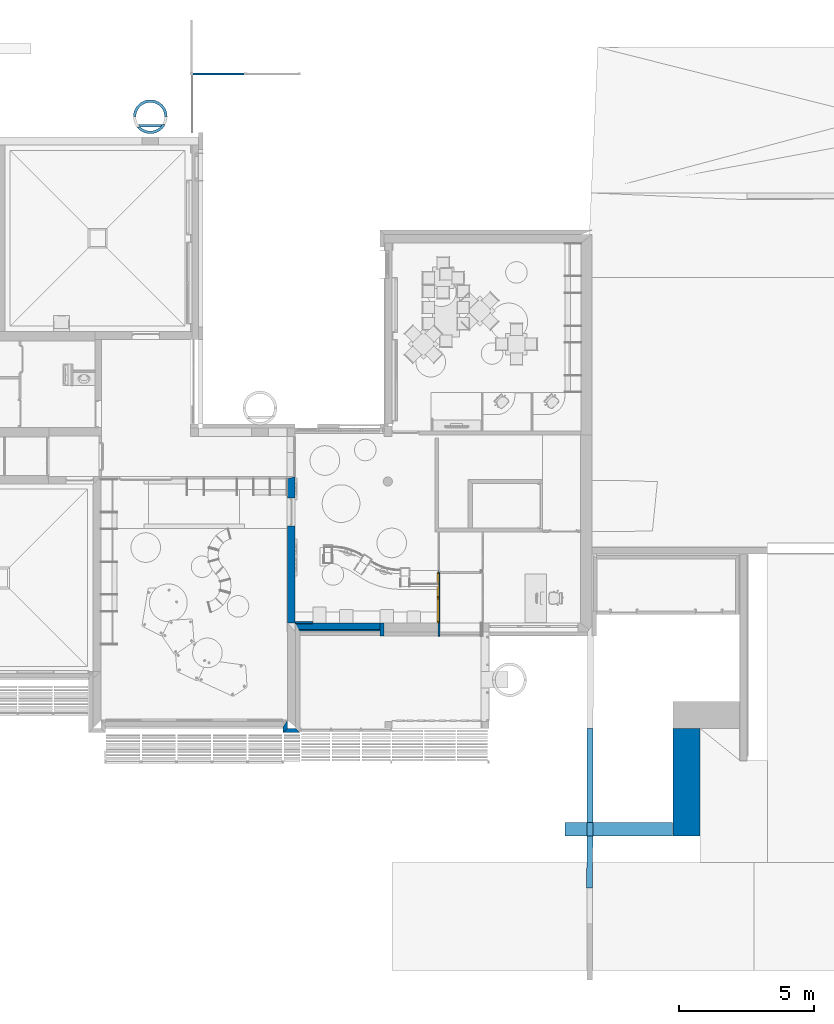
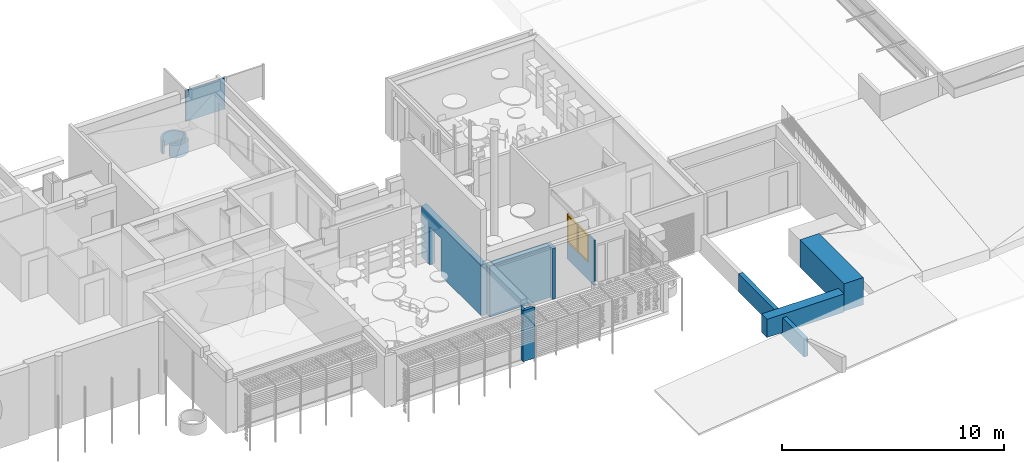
# One storey, part 24 of 64: 15 walls, 2 windows, 3 openings.
"""IFC2X3 building model written with IfcOpenShell, lengths in metres."""

from ifc_helpers import new_model, entity, si_unit, converted_unit, derived_unit, direction, frame, frame_2d, origin, origin_2d_with_axis, place, context, subcontext, project, spatial, polyline, circle_curve, parameter, trimmed, segment, composite_curve, rectangle, outline, extrude, clip, bounded_halfspace, source, transform, mapped, material, material_list, layer, layer_set, layer_usage, type_object, type_shapes, element, fill, save


model = new_model("IFC2X3")

# Units and contexts
model_context = context("Model", 3, precision=1e-05, world=origin(), true_north=direction((6.123031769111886e-17, 1.0)))
body_context = subcontext(model_context, "Body", "Model", "MODEL_VIEW")
ifc_project = project(units=[si_unit("LENGTHUNIT", "METRE"), si_unit("AREAUNIT", "SQUARE_METRE"), si_unit("VOLUMEUNIT", "CUBIC_METRE"), converted_unit("PLANEANGLEUNIT", "DEGREE", entity("IfcRatioMeasure", 0.017453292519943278), si_unit("PLANEANGLEUNIT", "RADIAN"), dimensions=[0, 0, 0, 0, 0, 0, 0]), si_unit("MASSUNIT", "GRAM", prefix="KILO"), derived_unit("MASSDENSITYUNIT", [(si_unit("MASSUNIT", "GRAM", prefix="KILO"), 1), (si_unit("LENGTHUNIT", "METRE"), -3)]), derived_unit("MOMENTOFINERTIAUNIT", [(si_unit("LENGTHUNIT", "METRE"), 4)]), si_unit("TIMEUNIT", "SECOND"), si_unit("FREQUENCYUNIT", "HERTZ"), si_unit("THERMODYNAMICTEMPERATUREUNIT", "DEGREE_CELSIUS"), derived_unit("THERMALTRANSMITTANCEUNIT", [(si_unit("MASSUNIT", "GRAM", prefix="KILO"), 1), (si_unit("THERMODYNAMICTEMPERATUREUNIT", "KELVIN"), -1), (si_unit("TIMEUNIT", "SECOND"), -3)]), derived_unit("THERMALCONDUCTANCEUNIT", [(si_unit("MASSUNIT", "GRAM", prefix="KILO"), 1), (si_unit("LENGTHUNIT", "METRE"), 1), (si_unit("THERMODYNAMICTEMPERATUREUNIT", "KELVIN"), -1), (si_unit("TIMEUNIT", "SECOND"), -3)]), derived_unit("VOLUMETRICFLOWRATEUNIT", [(si_unit("LENGTHUNIT", "METRE"), 3), (si_unit("TIMEUNIT", "SECOND"), -1)]), derived_unit("MASSFLOWRATEUNIT", [(si_unit("MASSUNIT", "GRAM", prefix="KILO"), 1), (si_unit("TIMEUNIT", "SECOND"), -1)]), derived_unit("ROTATIONALFREQUENCYUNIT", [(si_unit("TIMEUNIT", "SECOND"), -1)]), si_unit("ELECTRICCURRENTUNIT", "AMPERE"), si_unit("ELECTRICVOLTAGEUNIT", "VOLT"), si_unit("POWERUNIT", "WATT"), si_unit("FORCEUNIT", "NEWTON", prefix="KILO"), si_unit("ILLUMINANCEUNIT", "LUX"), si_unit("LUMINOUSFLUXUNIT", "LUMEN"), si_unit("LUMINOUSINTENSITYUNIT", "CANDELA"), derived_unit("USERDEFINED", [(si_unit("MASSUNIT", "GRAM", prefix="KILO"), -1), (si_unit("LENGTHUNIT", "METRE"), -2), (si_unit("TIMEUNIT", "SECOND"), 3), (si_unit("LUMINOUSFLUXUNIT", "LUMEN"), 1)]), derived_unit("USERDEFINED", [(si_unit("MASSUNIT", "GRAM", prefix="KILO"), 1), (si_unit("LENGTHUNIT", "METRE"), 3), (si_unit("TIMEUNIT", "SECOND"), -3), (si_unit("ELECTRICCURRENTUNIT", "AMPERE"), -2)]), derived_unit("USERDEFINED", [(si_unit("LENGTHUNIT", "METRE"), 2), (si_unit("TIMEUNIT", "SECOND"), -2)]), derived_unit("SOUNDPOWERUNIT", [(si_unit("MASSUNIT", "GRAM", prefix="KILO"), 1), (si_unit("LENGTHUNIT", "METRE"), 2), (si_unit("TIMEUNIT", "SECOND"), -3)]), derived_unit("SOUNDPRESSUREUNIT", [(si_unit("MASSUNIT", "GRAM", prefix="KILO"), 1), (si_unit("LENGTHUNIT", "METRE"), -1), (si_unit("TIMEUNIT", "SECOND"), -2)]), derived_unit("LINEARVELOCITYUNIT", [(si_unit("LENGTHUNIT", "METRE"), 1), (si_unit("TIMEUNIT", "SECOND"), -1)]), si_unit("PRESSUREUNIT", "PASCAL"), derived_unit("USERDEFINED", [(si_unit("LENGTHUNIT", "METRE"), -2), (si_unit("MASSUNIT", "GRAM", prefix="KILO"), 1), (si_unit("TIMEUNIT", "SECOND"), -2)]), derived_unit("LINEARFORCEUNIT", [(si_unit("MASSUNIT", "GRAM", prefix="KILO"), 1), (si_unit("LENGTHUNIT", "METRE"), 1), (si_unit("TIMEUNIT", "SECOND"), -2), (si_unit("LENGTHUNIT", "METRE"), -1)]), derived_unit("PLANARFORCEUNIT", [(si_unit("MASSUNIT", "GRAM", prefix="KILO"), 1), (si_unit("LENGTHUNIT", "METRE"), 1), (si_unit("TIMEUNIT", "SECOND"), -2), (si_unit("LENGTHUNIT", "METRE"), -2)]), derived_unit("SPECIFICHEATCAPACITYUNIT", [(si_unit("LENGTHUNIT", "METRE"), 2), (si_unit("TIMEUNIT", "SECOND"), -2), (si_unit("THERMODYNAMICTEMPERATUREUNIT", "KELVIN"), -1)]), derived_unit("VAPORPERMEABILITYUNIT", [(si_unit("TIMEUNIT", "SECOND"), 1), (si_unit("LENGTHUNIT", "METRE"), -1)]), derived_unit("DYNAMICVISCOSITYUNIT", [(si_unit("MASSUNIT", "GRAM", prefix="KILO"), 1), (si_unit("LENGTHUNIT", "METRE"), -1), (si_unit("TIMEUNIT", "SECOND"), -1)]), derived_unit("THERMALEXPANSIONCOEFFICIENTUNIT", [(si_unit("THERMODYNAMICTEMPERATUREUNIT", "KELVIN"), -1)])], contexts=[model_context])

# Site, building, storey
site_placement = place(None, origin())
site = spatial("IfcSite", under=ifc_project, at=site_placement, Name="Default", CompositionType="ELEMENT")
building_placement = place(site_placement, origin())
building = spatial("IfcBuilding", under=site, at=building_placement, CompositionType="ELEMENT")
storey_placement = place(building_placement, origin())
storey = spatial("IfcBuildingStorey", under=building, at=storey_placement, Name="REZ-DE-CHAUSSÉE", CompositionType="ELEMENT", Elevation=0.0)

# Walls
ifc_material_1 = material(Name="Enduit - Jaune nature")
ifc_layer_1 = layer(ifc_material_1, 0.02)
ifc_material_2 = material(Name="Isolation - Fibre de verre")
ifc_layer_2 = layer(ifc_material_2, 0.14)
ifc_layer_set_1 = layer_set([ifc_layer_1, ifc_layer_2], Name="Mur de base:ABA ITE 140 + enduit 160")
ifc_layer_usage_1 = layer_usage(ifc_layer_set_1, "AXIS2", "NEGATIVE", 0.08)
wall_type_1 = type_object("IfcWallType", Name="Mur de base:ABA ITE 140 + enduit 160", PredefinedType="STANDARD", material=ifc_layer_set_1)
wall_1_placement = place(storey_placement, frame((120.60075227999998, 7.587209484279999, 0.0), z_axis=(0.0, 0.0, 1.0), x_axis=(0.0, 1.0, 0.0)))
element("IfcWallStandardCase", 1, at=wall_1_placement, inside=storey, type_object=wall_type_1, material=ifc_layer_usage_1, Name="MurExt-013", ObjectType="Mur de base:ABA ITE 140 + enduit 160", context=body_context, shape_type="SweptSolid", body=[
    extrude(rectangle(XDim=0.49000000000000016, YDim=0.15999999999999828, at=frame_2d((0.24500000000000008, 0.0), x_axis=(-1.0, 0.0))), origin(), (0.0, 0.0, 1.0), 2.8),
])
wall_2_placement = place(storey_placement, frame((117.01075228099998, 4.0072094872, 0.0), z_axis=(0.0, 0.0, 1.0), x_axis=(0.0, 1.0, 0.0)))
element("IfcWallStandardCase", 2, at=wall_2_placement, inside=storey, type_object=wall_type_1, material=ifc_layer_usage_1, Name="MurExt-015", ObjectType="Mur de base:ABA ITE 140 + enduit 160", context=body_context, shape_type="SweptSolid", body=[
    extrude(outline(polyline([(0.45999999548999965, -0.07999999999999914), (0.20999999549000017, 0.07999999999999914), (0.0, 0.07999999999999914), (0.16000000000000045, -0.07999999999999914), (0.45999999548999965, -0.07999999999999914)])), origin(), (0.0, 0.0, 1.0), 2.8),
])
wall_3_placement = place(storey_placement, frame((117.550752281, 4.0872094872, 0.0), z_axis=(0.0, 0.0, 1.0), x_axis=(-1.0, 0.0, 0.0)))
element("IfcWallStandardCase", 3, at=wall_3_placement, inside=storey, type_object=wall_type_1, material=ifc_layer_usage_1, Name="MurExt-014", ObjectType="Mur de base:ABA ITE 140 + enduit 160", context=body_context, shape_type="SweptSolid", body=[
    extrude(outline(polyline([(0.46000000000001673, -0.07999999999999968), (0.620000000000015, 0.08000000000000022), (0.0, 0.08000000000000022), (0.15999999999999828, -0.07999999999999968), (0.46000000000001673, -0.07999999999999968)])), origin(), (0.0, 0.0, 1.0), 2.8),
])

# Wall, opening
ifc_material_3 = material(Name="Appareillage - Pierre taillé")
ifc_layer_3 = layer(ifc_material_3, 0.29)
ifc_layer_set_2 = layer_set([ifc_layer_3], Name="Mur de base:Struct. - Pierre 290")
ifc_layer_usage_2 = layer_usage(ifc_layer_set_2, "AXIS2", "NEGATIVE", 0.145)
wall_type_2 = type_object("IfcWallType", Name="Mur de base:Struct. - Pierre 290", PredefinedType="STANDARD", material=ifc_layer_set_2)
wall_4_placement = place(storey_placement, frame((117.235752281, 13.5072094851, 0.0), z_axis=(0.0, 0.0, 1.0), x_axis=(0.0, -1.0, 0.0)))
wall_4 = element("IfcWallStandardCase", 4, at=wall_4_placement, inside=storey, type_object=wall_type_2, material=ifc_layer_usage_2, Name="MurExt-003", ObjectType="Mur de base:Struct. - Pierre 290", context=body_context, shape_type="SweptSolid", body=[
    extrude(outline(polyline([(0.07999999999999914, -0.14500000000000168), (5.430000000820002, -0.14500000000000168), (5.430000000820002, 0.14500000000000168), (0.0, 0.14500000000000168), (0.07999999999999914, -0.14500000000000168)])), origin(), (0.0, 0.0, 1.0), 2.8),
])
opening_1_placement = place(wall_4_placement, frame((13.5072094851, -117.235752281, 0.0), z_axis=(0.0, 0.0, 1.0), x_axis=(0.0, 1.0, 0.0)))
element("IfcOpeningElement", 5, at=opening_1_placement, cuts=wall_4, Name="MurExt-003", ObjectType="Opening", context=body_context, shape_type="SweptSolid", body=[
    extrude(rectangle(XDim=2.09, YDim=1.0299999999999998, at=frame_2d((0.0, 0.0), x_axis=(0.0, 1.0))), frame((116.939952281, 12.19720948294, 1.045), z_axis=(1.0, 0.0, 0.0), x_axis=(0.0, -1.0, 0.0)), (0.0, 0.0, 1.0), 0.5916000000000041),
])

# Walls
ifc_material_4 = material(Name="Bois - Pin granuleux horizontal")
ifc_layer_4 = layer(ifc_material_4, 0.031999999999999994)
ifc_material_5 = material(Name="Air - Vide d'air")
ifc_layer_5 = layer(ifc_material_5, 0.041)
ifc_material_6 = material(Name="Bois - Panneaux de particules")
ifc_layer_6 = layer(ifc_material_6, 0.022)
ifc_layer_7 = layer(ifc_material_2, 0.12)
ifc_layer_8 = layer(ifc_material_6, 0.022)
ifc_material_7 = material(Name="Plâtre - Plaques de plâtre")
ifc_layer_9 = layer(ifc_material_7, 0.013)
ifc_layer_set_3 = layer_set([ifc_layer_4, ifc_layer_5, ifc_layer_6, ifc_layer_7, ifc_layer_8, ifc_layer_9], Name="Mur de base:ABA MOB bardage 250")
ifc_layer_usage_3 = layer_usage(ifc_layer_set_3, "AXIS2", "NEGATIVE", 0.12499999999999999)
wall_type_3 = type_object("IfcWallType", Name="Mur de base:ABA MOB bardage 250", PredefinedType="STANDARD", material=ifc_layer_set_3)
wall_5_placement = place(storey_placement, frame((120.52075227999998, 7.952209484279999, 0.0), z_axis=(0.0, 0.0, 1.0), x_axis=(-1.0, 0.0, 0.0)))
element("IfcWallStandardCase", 6, at=wall_5_placement, inside=storey, type_object=wall_type_3, material=ifc_layer_usage_3, Name="MurExt-003", ObjectType="Mur de base:ABA MOB bardage 250", context=body_context, shape_type="SweptSolid", body=[
    extrude(rectangle(XDim=3.129999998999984, YDim=0.24999999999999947, at=frame_2d((1.564999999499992, 0.0), x_axis=(-1.0, 0.0))), origin(), (0.0, 0.0, 1.0), 2.8),
])
ifc_material_8 = material(Name="Béton - Parpaing (Blocs)")
ifc_layer_10 = layer(ifc_material_8, 0.1)
ifc_layer_set_4 = layer_set([ifc_layer_10], Name="Mur de base:Struct. - Parpaing béton 100")
ifc_layer_usage_4 = layer_usage(ifc_layer_set_4, "AXIS2", "NEGATIVE", 0.05)
wall_type_4 = type_object("IfcWallType", Name="Mur de base:Struct. - Parpaing béton 100", PredefinedType="STANDARD", material=ifc_layer_set_4)
wall_6_placement = place(storey_placement, frame((112.44437373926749, 26.5272094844, -0.49999999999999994), z_axis=(0.0, 0.0, 1.0), x_axis=(-1.0, 0.0, 0.0)))
element("IfcWallStandardCase", 7, at=wall_6_placement, inside=storey, type_object=wall_type_4, material=ifc_layer_usage_4, Name="MurExt-004", ObjectType="Mur de base:Struct. - Parpaing béton 100", context=body_context, shape_type="SweptSolid", body=[
    extrude(outline(composite_curve([segment(trimmed(circle_curve(frame_2d((0.443621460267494, -0.3400000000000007), x_axis=(1.0, 0.0)), 0.53), [parameter(33.17306602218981)], [parameter(47.37900904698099)], True, "PARAMETER"), True, "CONTINUOUS"), segment(polyline([(0.802508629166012, 0.050000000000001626), (0.0847342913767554, 0.050000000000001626)]), True, "CONTINUOUS"), segment(trimmed(circle_curve(frame_2d((0.44362146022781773, -0.3400000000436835), x_axis=(0.7853534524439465, 0.6190476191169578)), 0.5300000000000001), [parameter(94.37437106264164)], [parameter(108.58031408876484)], True, "PARAMETER"), True, "CONTINUOUS"), segment(polyline([(0.0, -0.0499999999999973), (0.8872429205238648, -0.0499999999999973)]), True, "CONTINUOUS")], self_intersect=False)), origin(), (0.0, 0.0, 1.0), 0.7),
])
ifc_layer_11 = layer(ifc_material_3, 0.22)
ifc_layer_set_5 = layer_set([ifc_layer_11], Name="Mur de base:Struct. - Pierre 220")
ifc_layer_usage_5 = layer_usage(ifc_layer_set_5, "AXIS2", "NEGATIVE", 0.11)
wall_type_5 = type_object("IfcWallType", Name="Mur de base:Struct. - Pierre 220", PredefinedType="STANDARD", material=ifc_layer_set_5)
wall_7_placement = place(storey_placement, frame((128.30736037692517, -1.7531221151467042, -0.2), z_axis=(0.0, 0.0, 1.0), x_axis=(0.0035626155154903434, 0.9999936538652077, 0.0)))
element("IfcWallStandardCase", 8, at=wall_7_placement, inside=storey, type_object=wall_type_5, material=ifc_layer_usage_5, Name="MurExt-002", ObjectType="Mur de base:Struct. - Pierre 220", context=body_context, shape_type="Clipping", body=[
    clip(extrude(rectangle(XDim=5.919977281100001, YDim=0.22000000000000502, at=frame_2d((2.9599886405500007, -6.938893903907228e-18), x_axis=(-1.0, 0.0))), origin(), (0.0, 0.0, 1.0), 1.0), bounded_halfspace(frame((1.9199519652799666, 0.11000000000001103, 0.2), z_axis=(0.0, 0.0, -1.0), x_axis=(0.9999936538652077, 0.0035626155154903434, 0.0)), True, frame((1.9199519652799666, 0.11000000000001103, 0.2), z_axis=(0.0, 0.0, -1.0), x_axis=(0.9999936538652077, 0.0035626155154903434, 0.0)), polyline([(0.0, 0.0), (0.5, 0.0017813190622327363), (0.5, 0.22178271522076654), (0.0, 0.2200013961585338), (0.0, 0.0)]))),
])
ifc_layer_12 = layer(ifc_material_3, 0.1)
ifc_layer_set_6 = layer_set([ifc_layer_12], Name="Mur de base:Struct. - Pierre 100")
ifc_layer_usage_6 = layer_usage(ifc_layer_set_6, "AXIS2", "POSITIVE", -0.05)
wall_type_6 = type_object("IfcWallType", Name="Mur de base:Struct. - Pierre 100", PredefinedType="STANDARD", material=ifc_layer_set_6)
wall_8_placement = place(storey_placement, frame((111.420752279, 26.867209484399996, -0.49999999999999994)))
element("IfcWallStandardCase", 9, at=wall_8_placement, inside=storey, type_object=wall_type_6, material=ifc_layer_usage_6, Name="MurExt-003", ObjectType="Mur de base:Struct. - Pierre 100", context=body_context, shape_type="SweptSolid", body=[
    extrude(outline(composite_curve([segment(trimmed(circle_curve(frame_2d((0.5800000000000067, 0.0), x_axis=(1.0, 0.0)), 0.63), [parameter(0.0)], [parameter(180.00000000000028)], True, "PARAMETER"), True, "CONTINUOUS"), segment(polyline([(-0.04999999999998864, 0.0), (0.050000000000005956, 0.0)]), True, "CONTINUOUS"), segment(trimmed(circle_curve(frame_2d((0.5800000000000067, 0.0), x_axis=(1.0, 0.0)), 0.53), [parameter(0.0)], [parameter(180.00000000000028)], True, "PARAMETER"), False, "CONTINUOUS"), segment(polyline([(1.1100000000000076, 0.0), (1.2100000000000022, 0.0)]), True, "CONTINUOUS")], self_intersect=False)), origin(), (0.0, 0.0, 1.0), 0.7),
])
wall_9_placement = place(storey_placement, frame((112.51564981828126, 26.60022535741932, -0.49999999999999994), z_axis=(0.0, 0.0, 1.0), x_axis=(-0.7853534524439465, -0.6190476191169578, 0.0)))
element("IfcWallStandardCase", 10, at=wall_9_placement, inside=storey, type_object=wall_type_6, material=ifc_layer_usage_6, Name="MurExt-004", ObjectType="Mur de base:Struct. - Pierre 100", context=body_context, shape_type="SweptSolid", body=[
    extrude(outline(composite_curve([segment(trimmed(circle_curve(frame_2d((0.23910067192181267, -0.5284230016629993), x_axis=(1.0, 0.0)), 0.6300000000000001), [parameter(359.99999999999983)], [parameter(114.34578557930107)], True, "PARAMETER"), True, "CONTINUOUS"), segment(polyline([(-0.020612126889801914, 0.04555370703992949), (0.0702248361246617, -0.026047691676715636)]), True, "CONTINUOUS"), segment(trimmed(circle_curve(frame_2d((0.23910067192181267, -0.5284230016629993), x_axis=(1.0, 0.0)), 0.5300000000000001), [parameter(94.37437106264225)], [parameter(108.580314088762)], True, "PARAMETER"), False, "CONTINUOUS"), segment(trimmed(circle_curve(frame_2d((0.23910067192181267, -0.5284230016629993), x_axis=(1.0, 0.0)), 0.5300000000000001), [parameter(9.132389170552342)], [parameter(94.37437106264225)], True, "PARAMETER"), False, "CONTINUOUS"), segment(polyline([(0.7623825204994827, -0.44430340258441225), (0.869100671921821, -0.5284230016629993)]), True, "CONTINUOUS")], self_intersect=False)), origin(), (0.0, 0.0, 1.0), 0.7000000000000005),
])

# Wall, openings, windows
ifc_layer_13 = layer(ifc_material_7, 0.013)
ifc_layer_14 = layer(ifc_material_2, 0.044)
ifc_layer_15 = layer(ifc_material_7, 0.013)
ifc_layer_set_7 = layer_set([ifc_layer_13, ifc_layer_14, ifc_layer_15], Name="Mur de base:ABA cloison 7cm 70")
ifc_layer_usage_7 = layer_usage(ifc_layer_set_7, "AXIS2", "NEGATIVE", 0.034999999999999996)
wall_type_7 = type_object("IfcWallType", Name="Mur de base:ABA cloison 7cm 70", PredefinedType="STANDARD", material=ifc_layer_set_7)
wall_10_placement = place(storey_placement, frame((122.71575227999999, 7.58720948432, 0.0), z_axis=(0.0, 0.0, 1.0), x_axis=(0.0, 1.0, 0.0)))
wall_10 = element("IfcWallStandardCase", 11, at=wall_10_placement, inside=storey, type_object=wall_type_7, material=ifc_layer_usage_7, Name="MurExt-023", ObjectType="Mur de base:ABA cloison 7cm 70", context=body_context, shape_type="SweptSolid", body=[
    extrude(outline(polyline([(2.3700000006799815, -0.03500000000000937), (2.4400000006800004, 0.034999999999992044), (0.0, 0.034999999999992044), (0.0, -0.03500000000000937), (2.3700000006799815, -0.03500000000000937)])), origin(), (0.0, 0.0, 1.0), 2.5),
])
opening_2_placement = place(wall_10_placement, frame((-7.58720948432, 122.71575227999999, 0.0), z_axis=(0.0, 0.0, 1.0), x_axis=(0.0, -1.0, 0.0)))
opening_2 = element("IfcOpeningElement", 12, at=opening_2_placement, cuts=wall_10, Name="MurExt-023", ObjectType="Opening", context=body_context, shape_type="SweptSolid", body=[
    extrude(rectangle(XDim=1.4999999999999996, YDim=0.9399999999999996, at=frame_2d((5.551115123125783e-16, 0.0), x_axis=(0.0, 1.0))), frame((122.78645227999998, 8.54720948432, 1.7499999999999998), z_axis=(-1.0, 0.0, 0.0), x_axis=(0.0, -1.0, 0.0)), (0.0, 0.0, 1.0), 0.14139999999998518),
])
opening_3_placement = place(wall_10_placement, frame((-7.58720948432, 122.71575227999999, 0.0), z_axis=(0.0, 0.0, 1.0), x_axis=(0.0, -1.0, 0.0)))
opening_3 = element("IfcOpeningElement", 13, at=opening_3_placement, cuts=wall_10, Name="MurExt-023", ObjectType="Opening", context=body_context, shape_type="SweptSolid", body=[
    extrude(rectangle(XDim=1.4999999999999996, YDim=0.9399999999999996, at=frame_2d((5.551115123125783e-16, 0.0), x_axis=(0.0, 1.0))), frame((122.78645227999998, 9.487209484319, 1.7499999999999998), z_axis=(-1.0, 0.0, 0.0), x_axis=(0.0, -1.0, 0.0)), (0.0, 0.0, 1.0), 0.14139999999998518),
])
ifc_material_9 = material(Name="Transp. - Verre clair (rapide)")
ifc_material_10 = material(Name="Peinture - Anthracite")
ifc_material_list = material_list([ifc_material_9, ifc_material_10])
window_style_1 = type_object("IfcWindowStyle", Name="Fen-007", ConstructionType="NOTDEFINED", OperationType="NOTDEFINED", ParameterTakesPrecedence=False, Sizeable=False, material=ifc_material_list)
shared_shape_1 = source(origin(), body_context, "Body", "SweptSolid", [
    extrude(rectangle(XDim=0.8399999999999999, YDim=0.010000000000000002, at=origin_2d_with_axis()), frame((0.4699999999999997, 0.0357, 0.0601)), (0.0, 0.0, 1.0), 1.3899),
    extrude(outline(polyline([(-0.7499999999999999, -0.47), (0.7499999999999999, -0.47), (0.7499999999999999, 0.47), (-0.7499999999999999, 0.47), (-0.7499999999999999, -0.47)]), holes=[polyline([(0.69, 0.41999999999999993), (0.6899999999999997, -0.41999999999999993), (-0.7, -0.41999999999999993), (-0.6999999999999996, 0.41999999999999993), (0.69, 0.41999999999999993)])]), frame((0.4699999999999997, 0.0007000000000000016, 0.7499999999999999), z_axis=(0.0, 1.0, 0.0), x_axis=(0.0, 0.0, -1.0)), (0.0, 0.0, 1.0), 0.07),
])
type_shapes(window_style_1, [shared_shape_1])
window_1_placement = place(opening_2_placement, frame((122.64505227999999, 9.01720948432, 1.0), z_axis=(0.0, 0.0, 1.0), x_axis=(0.0, -1.0, 0.0)))
window_1 = element("IfcWindow", 14, at=window_1_placement, inside=storey, type_object=window_style_1, material=ifc_material_list, Name="Fen-007 26298:Fen-007 26298", ObjectType="Fen-007 26298:Fen-007 26298", OverallHeight=1.4999999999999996, OverallWidth=0.94, context=body_context, shape_type="MappedRepresentation", body=[
    mapped(shared_shape_1, transform((0.0, 0.0, 0.0), scale=1.0)),
])
fill(opening_2, window_1)
window_style_2 = type_object("IfcWindowStyle", Name="Fen-007", ConstructionType="NOTDEFINED", OperationType="NOTDEFINED", ParameterTakesPrecedence=False, Sizeable=False, material=ifc_material_list)
shared_shape_2 = source(origin(), body_context, "Body", "SweptSolid", [
    extrude(rectangle(XDim=0.8399999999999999, YDim=0.010000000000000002, at=origin_2d_with_axis()), frame((0.4699999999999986, 0.0357, 0.0601)), (0.0, 0.0, 1.0), 1.3899),
    extrude(outline(polyline([(-0.7499999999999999, -0.47), (0.7499999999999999, -0.47), (0.7499999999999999, 0.47), (-0.7499999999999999, 0.47), (-0.7499999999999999, -0.47)]), holes=[polyline([(0.69, 0.41999999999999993), (0.6899999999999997, -0.41999999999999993), (-0.7, -0.41999999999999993), (-0.6999999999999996, 0.41999999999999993), (0.69, 0.41999999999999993)])]), frame((0.4699999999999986, 0.0007000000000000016, 0.7499999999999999), z_axis=(0.0, 1.0, 0.0), x_axis=(0.0, 0.0, -1.0)), (0.0, 0.0, 1.0), 0.07),
])
type_shapes(window_style_2, [shared_shape_2])
window_2_placement = place(opening_3_placement, frame((122.64505227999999, 9.957209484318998, 1.0), z_axis=(0.0, 0.0, 1.0), x_axis=(0.0, -1.0, 0.0)))
window_2 = element("IfcWindow", 15, at=window_2_placement, inside=storey, type_object=window_style_2, material=ifc_material_list, Name="Fen-007 26480:Fen-007 26480", ObjectType="Fen-007 26480:Fen-007 26480", OverallHeight=1.4999999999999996, OverallWidth=0.94, context=body_context, shape_type="MappedRepresentation", body=[
    mapped(shared_shape_2, transform((0.0, 0.0, 0.0), scale=1.0)),
])
fill(opening_3, window_2)

# Walls
ifc_material_11 = material(Name="Peinture - Beige sable")
ifc_layer_16 = layer(ifc_material_11, 0.49999999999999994)
ifc_layer_set_8 = layer_set([ifc_layer_16], Name="Mur de base:Finition ext - Fibre-ciment 500")
ifc_layer_usage_8 = layer_usage(ifc_layer_set_8, "AXIS2", "NEGATIVE", 0.24999999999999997)
wall_type_8 = type_object("IfcWallType", Name="Mur de base:Finition ext - Fibre-ciment 500", PredefinedType="STANDARD", material=ifc_layer_set_8)
wall_11_placement = place(storey_placement, frame((127.390752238, 0.4172095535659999, 0.0)))
element("IfcWallStandardCase", 16, at=wall_11_placement, inside=storey, type_object=wall_type_8, material=ifc_layer_usage_8, Name="MurExt-022", ObjectType="Mur de base:Finition ext - Fibre-ciment 500", context=body_context, shape_type="SweptSolid", body=[
    extrude(rectangle(XDim=3.9999999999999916, YDim=0.5, at=frame_2d((1.9999999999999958, 0.0), x_axis=(-1.0, 0.0))), origin(), (0.0, 0.0, 1.0), 0.9999999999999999),
])
ifc_layer_17 = layer(ifc_material_11, 0.9999999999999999)
ifc_layer_set_9 = layer_set([ifc_layer_17], Name="Mur de base:Finition ext - Fibre-ciment 1000")
ifc_layer_usage_9 = layer_usage(ifc_layer_set_9, "AXIS2", "NEGATIVE", 0.49999999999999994)
wall_type_9 = type_object("IfcWallType", Name="Mur de base:Finition ext - Fibre-ciment 1000", PredefinedType="STANDARD", material=ifc_layer_set_9)
wall_12_placement = place(storey_placement, frame((131.900752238, 0.16720952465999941, 0.05), z_axis=(0.0, 0.0, 1.0), x_axis=(0.0, 1.0, 0.0)))
element("IfcWallStandardCase", 17, at=wall_12_placement, inside=storey, type_object=wall_type_9, material=ifc_layer_usage_9, Name="MurExt-022", ObjectType="Mur de base:Finition ext - Fibre-ciment 1000", context=body_context, shape_type="SweptSolid", body=[
    extrude(rectangle(XDim=3.9999999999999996, YDim=1.0000000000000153, at=frame_2d((1.9999999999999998, 0.0), x_axis=(-1.0, 0.0))), origin(), (0.0, 0.0, 1.0), 1.4999999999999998),
])
ifc_material_12 = material(Name="Métal - Fer")
ifc_layer_18 = layer(ifc_material_12, 0.037)
ifc_layer_19 = layer(ifc_material_5, 0.035)
ifc_layer_20 = layer(ifc_material_2, 0.04)
ifc_layer_21 = layer(ifc_material_2, 0.145)
ifc_layer_22 = layer(ifc_material_6, 0.012)
ifc_layer_23 = layer(ifc_material_5, 0.048)
ifc_layer_24 = layer(ifc_material_7, 0.013)
ifc_layer_set_10 = layer_set([ifc_layer_18, ifc_layer_19, ifc_layer_20, ifc_layer_21, ifc_layer_22, ifc_layer_23, ifc_layer_24], Name="Mur de base:ABA MOB ITE bardage 330")
ifc_layer_usage_10 = layer_usage(ifc_layer_set_10, "AXIS2", "NEGATIVE", 0.165)
wall_type_10 = type_object("IfcWallType", Name="Mur de base:ABA MOB ITE bardage 330", PredefinedType="STANDARD", material=ifc_layer_set_10)
wall_13_placement = place(storey_placement, frame((120.52075227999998, 7.95220948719, 0.0), z_axis=(0.0, 0.0, 1.0), x_axis=(-1.0, 0.0, 0.0)))
element("IfcWallStandardCase", 18, at=wall_13_placement, inside=storey, type_object=wall_type_10, material=ifc_layer_usage_10, Name="MurExt-003", ObjectType="Mur de base:ABA MOB ITE bardage 330", context=body_context, shape_type="SweptSolid", body=[
    extrude(rectangle(XDim=3.129999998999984, YDim=0.3300000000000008, at=frame_2d((1.564999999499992, 0.0), x_axis=(-1.0, 0.0))), origin(), (0.0, 0.0, 1.0), 2.8),
])
ifc_material_13 = material(Name="Béton - Lissé")
ifc_layer_25 = layer(ifc_material_13, 0.08)
ifc_layer_set_11 = layer_set([ifc_layer_25], Name="Mur de base:Struct. - Béton 80")
ifc_layer_usage_11 = layer_usage(ifc_layer_set_11, "AXIS2", "NEGATIVE", 0.04)
wall_type_11 = type_object("IfcWallType", Name="Mur de base:Struct. - Béton 80", PredefinedType="STANDARD", material=ifc_layer_set_11)
wall_14_placement = place(storey_placement, frame((115.53075227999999, 28.457209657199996, -0.4), z_axis=(0.0, 0.0, 1.0), x_axis=(-1.0, 0.0, 0.0)))
element("IfcWallStandardCase", 19, at=wall_14_placement, inside=storey, type_object=wall_type_11, material=ifc_layer_usage_11, Name="MurExt-007", ObjectType="Mur de base:Struct. - Béton 80", context=body_context, shape_type="SweptSolid", body=[
    extrude(rectangle(XDim=2.040000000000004, YDim=0.07999999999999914, at=frame_2d((1.020000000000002, 0.0), x_axis=(-1.0, 0.0))), origin(), (0.0, 0.0, 1.0), 1.7),
])
ifc_layer_26 = layer(ifc_material_7, 0.013)
ifc_layer_27 = layer(ifc_material_2, 0.056999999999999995)
ifc_layer_set_12 = layer_set([ifc_layer_26, ifc_layer_27], Name="Mur de base:ABA doublage 7cm 70")
ifc_layer_usage_12 = layer_usage(ifc_layer_set_12, "AXIS2", "NEGATIVE", 0.034999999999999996)
wall_type_12 = type_object("IfcWallType", Name="Mur de base:ABA doublage 7cm 70", PredefinedType="STANDARD", material=ifc_layer_set_12)
wall_15_placement = place(storey_placement, frame((117.380752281, 8.09220948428, 0.0)))
element("IfcWallStandardCase", 20, at=wall_15_placement, inside=storey, type_object=wall_type_12, material=ifc_layer_usage_12, Name="MurExt-025", ObjectType="Mur de base:ABA doublage 7cm 70", context=body_context, shape_type="SweptSolid", body=[
    extrude(rectangle(XDim=0.6499999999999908, YDim=0.06999999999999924, at=frame_2d((0.3249999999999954, 0.0), x_axis=(-1.0, 0.0))), origin(), (0.0, 0.0, 1.0), 2.4999999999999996),
])

save(model, "model.ifc")
